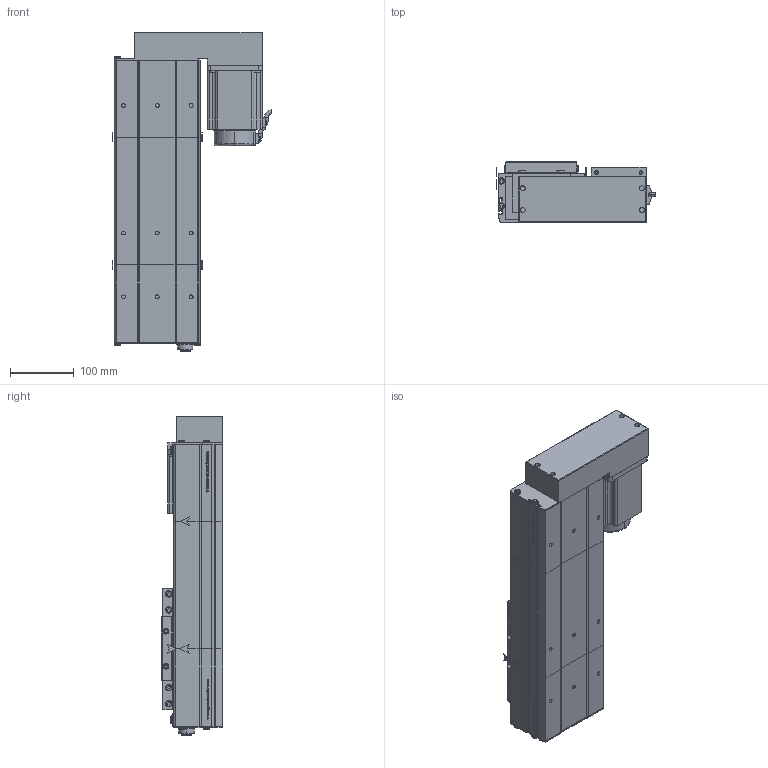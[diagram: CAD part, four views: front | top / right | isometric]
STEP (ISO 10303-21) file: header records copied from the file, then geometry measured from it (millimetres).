
FILE_DESCRIPTION (( 'STEP AP214' ), '1' );
FILE_NAME ('D14 CSH BL S200.STEP', '2010-06-29T14:59:45', ( 'Conseil Régional Haute-Normandie' ), ( 'Conseil Régional Haute-Normandie' ), 'SwSTEP 2.0', 'SolidWorks 2010', '' );
FILE_SCHEMA (( 'AUTOMOTIVE_DESIGN' ));
Length unit declared in the file: millimetre
Products named in the file (26): vis CHC M5.5; avant GMB 90 100 310; corps GMB 90 100 310; Conecteur_Default; Conecteur2_Default; GMB 90 100 310; D14 CSH BL S200; plaque de bout head D14 BL; couvercle head d14; corps head d14; Head D14 CSH BL; codeur GMB 90 100 310; Tail D14; plaque de maintient D14; plaque de bout tail d14; corps tail d14; couvercle CSH course S200; vis CHC M5; Vis CHC M8; corps  CSH 200; couvercle tail; chariot D14; Course CSH S200; vis CHC M7; chariot supérieur D14; charriot inférieur D14
Assembly tree (48 placements, depth 4):
  D14 CSH BL S200
    chariot D14
      chariot supérieur D14
      vis CHC M7  x8
      vis CHC M5  x4
      charriot inférieur D14
    Head D14 CSH BL
      plaque de maintient D14
      plaque de bout head D14 BL
      vis CHC M7  x2
      vis CHC M5.5  x4
      Vis CHC M8  x2
      corps head d14
      couvercle head d14
      GMB 90 100 310
        avant GMB 90 100 310
        Conecteur_Default
        corps GMB 90 100 310
        codeur GMB 90 100 310
        Conecteur2_Default
    Tail D14
      plaque de maintient D14
      vis CHC M7  x4
      Vis CHC M8  x2
      couvercle tail
      plaque de bout tail d14
      corps tail d14
    Course CSH S200
      corps  CSH 200
      couvercle CSH course S200
Bounding box: 250.75 x 95.75 x 501.3 mm (x, y, z)
Volume: 2966578.7 mm3; surface area: 697608.1 mm2
Topology: 49 solids, 49 shells, 2426 faces, 6221 edges, 4100 vertices
Faces by surface type: plane 1375, bspline 538, cylinder 400, torus 61, cone 52
Entity records: 106796 total; most frequent: CARTESIAN_POINT 57861, ORIENTED_EDGE 10694, DIRECTION 7952, EDGE_CURVE 5347, VECTOR 3618, LINE 3618, VERTEX_POINT 3548, EDGE_LOOP 2281
